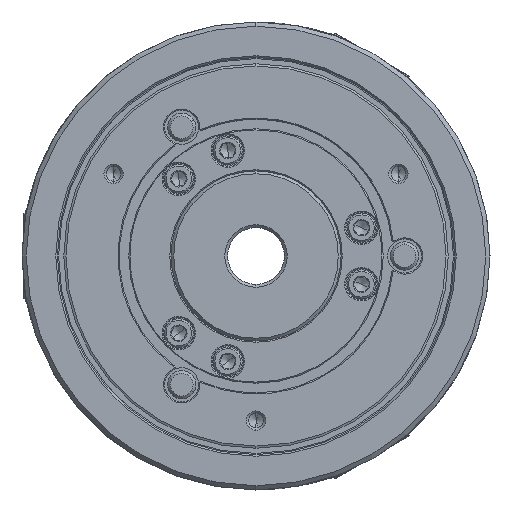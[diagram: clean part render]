
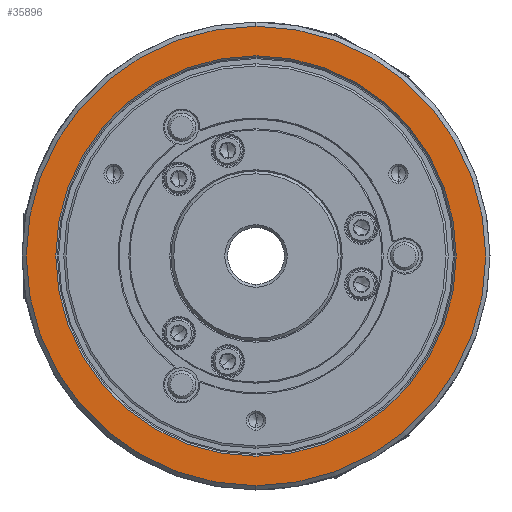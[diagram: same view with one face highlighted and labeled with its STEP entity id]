
A CAD part, left-side view. The second image highlights one B-rep face of the part: STEP entity #35896.
In plain terms, the highlighted planar face has unit normal (-1, 0, 0).
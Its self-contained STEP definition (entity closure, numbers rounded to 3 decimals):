
#863 = AXIS2_PLACEMENT_3D ( 'NONE', #43251, #11254, #76846 ) ;
#1267 = EDGE_CURVE ( 'NONE', #79293, #63328, #11078, .T. ) ;
#5272 = FACE_BOUND ( 'NONE', #77679, .T. ) ;
#5852 = CIRCLE ( 'NONE', #27650, 81. ) ;
#7412 = CARTESIAN_POINT ( 'NONE',  ( -81., 0., 81. ) ) ;
#7691 = ORIENTED_EDGE ( 'NONE', *, *, #30696, .F. ) ;
#11078 = CIRCLE ( 'NONE', #20665, 70.6 ) ;
#11254 = DIRECTION ( 'NONE',  ( -1., 0., 0. ) ) ;
#13251 = AXIS2_PLACEMENT_3D ( 'NONE', #61158, #67130, #20731 ) ;
#14583 = CIRCLE ( 'NONE', #13251, 81. ) ;
#20665 = AXIS2_PLACEMENT_3D ( 'NONE', #23746, #74382, #68005 ) ;
#20731 = DIRECTION ( 'NONE',  ( 0., 0., -1. ) ) ;
#21296 = DIRECTION ( 'NONE',  ( 1., 0., 0. ) ) ;
#22154 = DIRECTION ( 'NONE',  ( 0., 0., -1. ) ) ;
#23746 = CARTESIAN_POINT ( 'NONE',  ( -81., 0., 0. ) ) ;
#27650 = AXIS2_PLACEMENT_3D ( 'NONE', #52843, #21296, #22154 ) ;
#28021 = EDGE_LOOP ( 'NONE', ( #34714, #7691 ) ) ;
#28717 = ORIENTED_EDGE ( 'NONE', *, *, #51290, .T. ) ;
#30696 = EDGE_CURVE ( 'NONE', #68177, #82599, #5852, .T. ) ;
#31305 = FACE_OUTER_BOUND ( 'NONE', #28021, .T. ) ;
#34714 = ORIENTED_EDGE ( 'NONE', *, *, #75029, .F. ) ;
#35161 = CARTESIAN_POINT ( 'NONE',  ( -81., 0., -81. ) ) ;
#35896 = ADVANCED_FACE ( 'NONE', ( #5272, #31305 ), #44536, .T. ) ;
#43251 = CARTESIAN_POINT ( 'NONE',  ( -81., 70.6, 0. ) ) ;
#44536 = PLANE ( 'NONE',  #863 ) ;
#48096 = CARTESIAN_POINT ( 'NONE',  ( -81., 0., -70.6 ) ) ;
#49314 = AXIS2_PLACEMENT_3D ( 'NONE', #76699, #55487, #69903 ) ;
#51290 = EDGE_CURVE ( 'NONE', #63328, #79293, #72342, .T. ) ;
#52843 = CARTESIAN_POINT ( 'NONE',  ( -81., 0., 0. ) ) ;
#55487 = DIRECTION ( 'NONE',  ( 1., 0., 0. ) ) ;
#61158 = CARTESIAN_POINT ( 'NONE',  ( -81., 0., 0. ) ) ;
#63328 = VERTEX_POINT ( 'NONE', #48096 ) ;
#67130 = DIRECTION ( 'NONE',  ( 1., 0., 0. ) ) ;
#68005 = DIRECTION ( 'NONE',  ( 0., 0., -1. ) ) ;
#68177 = VERTEX_POINT ( 'NONE', #7412 ) ;
#69903 = DIRECTION ( 'NONE',  ( 0., 0., -1. ) ) ;
#70197 = CARTESIAN_POINT ( 'NONE',  ( -81., 0., 70.6 ) ) ;
#70471 = ORIENTED_EDGE ( 'NONE', *, *, #1267, .T. ) ;
#72342 = CIRCLE ( 'NONE', #49314, 70.6 ) ;
#74382 = DIRECTION ( 'NONE',  ( 1., 0., 0. ) ) ;
#75029 = EDGE_CURVE ( 'NONE', #82599, #68177, #14583, .T. ) ;
#76699 = CARTESIAN_POINT ( 'NONE',  ( -81., 0., 0. ) ) ;
#76846 = DIRECTION ( 'NONE',  ( 0., 0., 1. ) ) ;
#77679 = EDGE_LOOP ( 'NONE', ( #70471, #28717 ) ) ;
#79293 = VERTEX_POINT ( 'NONE', #70197 ) ;
#82599 = VERTEX_POINT ( 'NONE', #35161 ) ;
